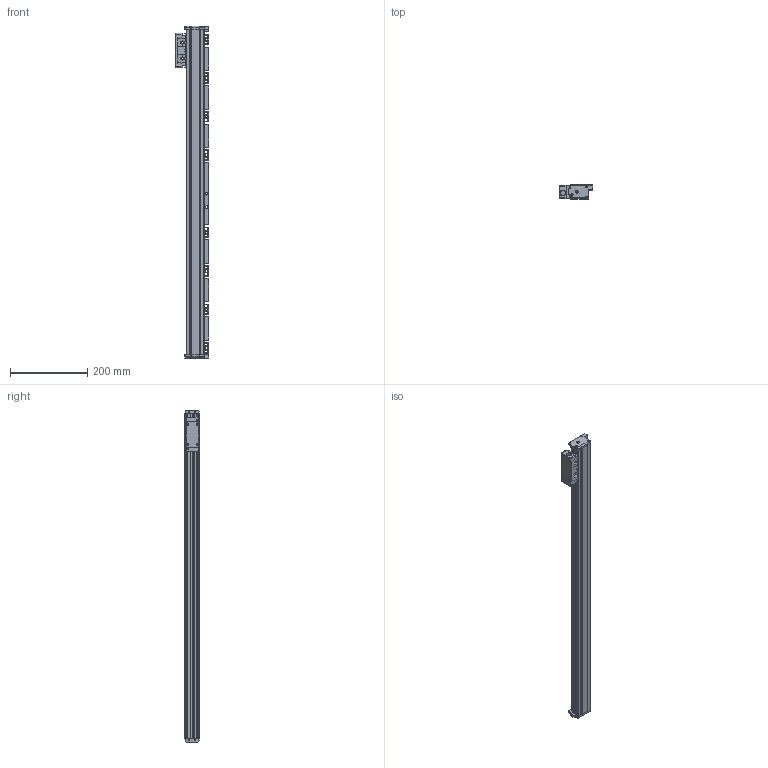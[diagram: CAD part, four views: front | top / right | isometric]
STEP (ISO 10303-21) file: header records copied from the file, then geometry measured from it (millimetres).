
FILE_DESCRIPTION(/* description */ (''),/* implementation_level */ '2;1');
FILE_NAME(/* name */ 'JC21A-740-1.stp',/* time_stamp */ '2023-12-21T16:37:34+08:00',/* author */ (''),/* organization */ (''),/* preprocessor_version */ 'ST-DEVELOPER v14',/* originating_system */ 'SIEMENS PLM Software NX 8.0',/* authorisation */ '');
FILE_SCHEMA (('CONFIG_CONTROL_DESIGN'));
Length unit declared in the file: millimetre
Products named in the file (1): JC21A-740-1
Bounding box: 87.5 x 37 x 861 mm (x, y, z)
Volume: 1394942.1 mm3; surface area: 239674.6 mm2
Topology: 4 solids, 6 shells, 677 faces, 1958 edges, 1297 vertices
Faces by surface type: plane 420, cylinder 225, cone 22, bspline 8, extrusion 2
Full cylindrical faces by diameter (mm): 2.5 x12, 3.3 x6, 3.7 x4, 4.2 x4, 5 x2, 6 x6, 6.6 x2, 6.8 x10, 7 x2, 13.2 x2
Entity records: 22533 total; most frequent: CARTESIAN_POINT 4583, ORIENTED_EDGE 3720, DIRECTION 3684, EDGE_CURVE 1860, VERTEX_POINT 1271, VECTOR 1242, LINE 1240, AXIS2_PLACEMENT_3D 1221
